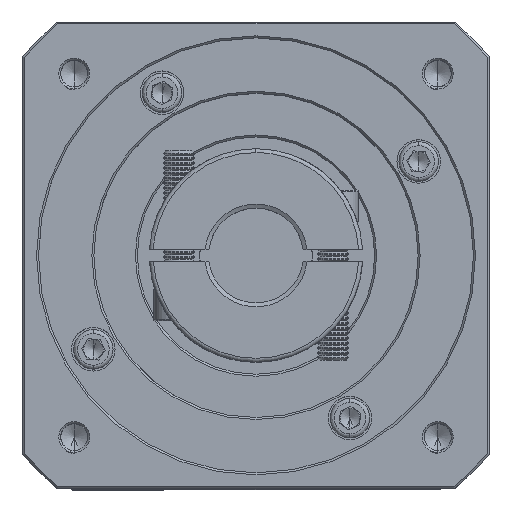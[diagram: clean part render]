
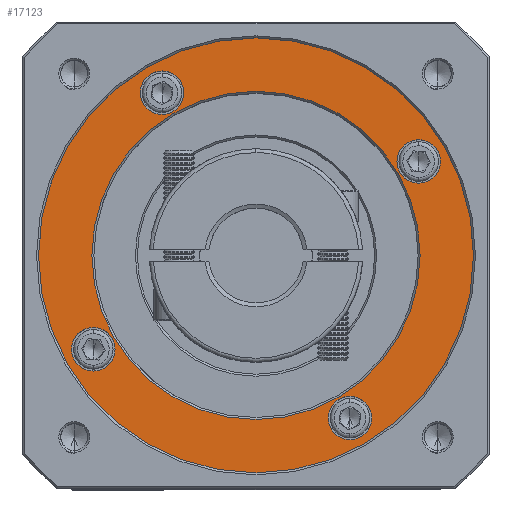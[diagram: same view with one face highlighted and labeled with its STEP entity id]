
A CAD part, top view. The second image highlights one B-rep face of the part: STEP entity #17123.
In plain terms, the highlighted planar face has unit normal (0, 0, 1).
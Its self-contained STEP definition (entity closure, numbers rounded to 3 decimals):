
#1349 = AXIS2_PLACEMENT_3D ( 'NONE', #29487, #39363, #101027 ) ;
#3537 = CIRCLE ( 'NONE', #48947, 5.5 ) ;
#4870 = VERTEX_POINT ( 'NONE', #115935 ) ;
#5914 = ORIENTED_EDGE ( 'NONE', *, *, #74565, .T. ) ;
#6865 = DIRECTION ( 'NONE',  ( 0., 1., 0. ) ) ;
#7279 = ORIENTED_EDGE ( 'NONE', *, *, #54686, .T. ) ;
#7755 = CARTESIAN_POINT ( 'NONE',  ( 52.682, 61.973, 0.694 ) ) ;
#8199 = DIRECTION ( 'NONE',  ( 0., 0., -1. ) ) ;
#8661 = VERTEX_POINT ( 'NONE', #67718 ) ;
#10295 = AXIS2_PLACEMENT_3D ( 'NONE', #7755, #8199, #79677 ) ;
#12389 = DIRECTION ( 'NONE',  ( 0., 0., -1. ) ) ;
#15146 = ORIENTED_EDGE ( 'NONE', *, *, #100506, .T. ) ;
#15988 = CIRCLE ( 'NONE', #83930, 5.5 ) ;
#16345 = VERTEX_POINT ( 'NONE', #57213 ) ;
#17123 = ADVANCED_FACE ( 'NONE', ( #90714, #73069, #114733, #85922, #25155, #21966 ), #58946, .T. ) ;
#19349 = CARTESIAN_POINT ( 'NONE',  ( 28.932, 108.61, 0.694 ) ) ;
#19363 = CIRCLE ( 'NONE', #41171, 41.5 ) ;
#20183 = EDGE_LOOP ( 'NONE', ( #56001, #39462 ) ) ;
#20666 = CARTESIAN_POINT ( 'NONE',  ( 28.932, 97.61, 0.694 ) ) ;
#21509 = CARTESIAN_POINT ( 'NONE',  ( 76.432, 20.837, 0.694 ) ) ;
#21966 = FACE_BOUND ( 'NONE', #122737, .T. ) ;
#25155 = FACE_BOUND ( 'NONE', #116338, .T. ) ;
#26543 = EDGE_CURVE ( 'NONE', #102422, #16345, #73822, .T. ) ;
#26806 = AXIS2_PLACEMENT_3D ( 'NONE', #21509, #53233, #61723 ) ;
#28297 = DIRECTION ( 'NONE',  ( 0., 1., 0. ) ) ;
#28774 = CIRCLE ( 'NONE', #26806, 5.5 ) ;
#29487 = CARTESIAN_POINT ( 'NONE',  ( 52.682, 61.973, 0.694 ) ) ;
#31024 = EDGE_CURVE ( 'NONE', #117292, #36007, #37559, .T. ) ;
#33037 = CIRCLE ( 'NONE', #33877, 55. ) ;
#33498 = CARTESIAN_POINT ( 'NONE',  ( 93.818, 85.723, 0.694 ) ) ;
#33877 = AXIS2_PLACEMENT_3D ( 'NONE', #122099, #80997, #101135 ) ;
#35994 = CARTESIAN_POINT ( 'NONE',  ( 52.682, 61.973, 0.694 ) ) ;
#36007 = VERTEX_POINT ( 'NONE', #100185 ) ;
#37559 = CIRCLE ( 'NONE', #117155, 5.5 ) ;
#38599 = AXIS2_PLACEMENT_3D ( 'NONE', #121700, #70687, #28297 ) ;
#38871 = DIRECTION ( 'NONE',  ( 0., 1., 0. ) ) ;
#39363 = DIRECTION ( 'NONE',  ( 0., 0., 1. ) ) ;
#39462 = ORIENTED_EDGE ( 'NONE', *, *, #102909, .T. ) ;
#40712 = CARTESIAN_POINT ( 'NONE',  ( 52.682, 6.973, 0.694 ) ) ;
#41171 = AXIS2_PLACEMENT_3D ( 'NONE', #73074, #125017, #104852 ) ;
#41724 = VERTEX_POINT ( 'NONE', #60494 ) ;
#42511 = CARTESIAN_POINT ( 'NONE',  ( 94.182, 61.973, 0.694 ) ) ;
#42947 = EDGE_LOOP ( 'NONE', ( #64768, #69262 ) ) ;
#43235 = EDGE_CURVE ( 'NONE', #53915, #8661, #28774, .T. ) ;
#44308 = CARTESIAN_POINT ( 'NONE',  ( 52.682, 116.973, 0.694 ) ) ;
#45794 = DIRECTION ( 'NONE',  ( 0., 1., 0. ) ) ;
#48080 = CARTESIAN_POINT ( 'NONE',  ( 11.546, 38.223, 0.694 ) ) ;
#48947 = AXIS2_PLACEMENT_3D ( 'NONE', #33498, #96010, #105404 ) ;
#53233 = DIRECTION ( 'NONE',  ( 0., 0., -1. ) ) ;
#53915 = VERTEX_POINT ( 'NONE', #102284 ) ;
#54686 = EDGE_CURVE ( 'NONE', #95677, #94227, #15988, .T. ) ;
#55000 = VERTEX_POINT ( 'NONE', #44308 ) ;
#56001 = ORIENTED_EDGE ( 'NONE', *, *, #26543, .T. ) ;
#57213 = CARTESIAN_POINT ( 'NONE',  ( 11.182, 61.973, 0.694 ) ) ;
#58877 = CARTESIAN_POINT ( 'NONE',  ( 11.546, 38.223, 0.694 ) ) ;
#58946 = PLANE ( 'NONE',  #1349 ) ;
#60347 = EDGE_CURVE ( 'NONE', #8661, #53915, #93786, .T. ) ;
#60494 = CARTESIAN_POINT ( 'NONE',  ( 93.818, 91.223, 0.694 ) ) ;
#61723 = DIRECTION ( 'NONE',  ( 0., 1., 0. ) ) ;
#64710 = AXIS2_PLACEMENT_3D ( 'NONE', #105769, #12389, #104895 ) ;
#64768 = ORIENTED_EDGE ( 'NONE', *, *, #94246, .T. ) ;
#65368 = CARTESIAN_POINT ( 'NONE',  ( 93.818, 85.723, 0.694 ) ) ;
#65591 = CIRCLE ( 'NONE', #64710, 5.5 ) ;
#67718 = CARTESIAN_POINT ( 'NONE',  ( 76.432, 26.337, 0.694 ) ) ;
#68130 = DIRECTION ( 'NONE',  ( 0., 0., -1. ) ) ;
#69262 = ORIENTED_EDGE ( 'NONE', *, *, #120875, .T. ) ;
#70687 = DIRECTION ( 'NONE',  ( 0., 0., -1. ) ) ;
#71584 = AXIS2_PLACEMENT_3D ( 'NONE', #48080, #68130, #119993 ) ;
#72836 = ORIENTED_EDGE ( 'NONE', *, *, #92486, .T. ) ;
#73069 = FACE_BOUND ( 'NONE', #20183, .T. ) ;
#73074 = CARTESIAN_POINT ( 'NONE',  ( 52.682, 61.973, 0.694 ) ) ;
#73467 = EDGE_CURVE ( 'NONE', #4870, #41724, #95005, .T. ) ;
#73822 = CIRCLE ( 'NONE', #10295, 41.5 ) ;
#74565 = EDGE_CURVE ( 'NONE', #94227, #95677, #65591, .T. ) ;
#79677 = DIRECTION ( 'NONE',  ( 1., 0., 0. ) ) ;
#80997 = DIRECTION ( 'NONE',  ( 0., 0., 1. ) ) ;
#83930 = AXIS2_PLACEMENT_3D ( 'NONE', #110579, #120776, #6865 ) ;
#85922 = FACE_BOUND ( 'NONE', #131195, .T. ) ;
#90714 = FACE_OUTER_BOUND ( 'NONE', #42947, .T. ) ;
#90908 = ORIENTED_EDGE ( 'NONE', *, *, #43235, .T. ) ;
#92486 = EDGE_CURVE ( 'NONE', #41724, #4870, #3537, .T. ) ;
#93786 = CIRCLE ( 'NONE', #38599, 5.5 ) ;
#94227 = VERTEX_POINT ( 'NONE', #20666 ) ;
#94246 = EDGE_CURVE ( 'NONE', #55000, #114754, #33037, .T. ) ;
#95005 = CIRCLE ( 'NONE', #107483, 5.5 ) ;
#95677 = VERTEX_POINT ( 'NONE', #19349 ) ;
#96010 = DIRECTION ( 'NONE',  ( 0., 0., -1. ) ) ;
#97621 = DIRECTION ( 'NONE',  ( 0., 0., 1. ) ) ;
#98028 = CARTESIAN_POINT ( 'NONE',  ( 11.546, 32.723, 0.694 ) ) ;
#100185 = CARTESIAN_POINT ( 'NONE',  ( 11.546, 43.723, 0.694 ) ) ;
#100506 = EDGE_CURVE ( 'NONE', #36007, #117292, #102163, .T. ) ;
#100560 = ORIENTED_EDGE ( 'NONE', *, *, #73467, .T. ) ;
#101027 = DIRECTION ( 'NONE',  ( 0., 1., 0. ) ) ;
#101135 = DIRECTION ( 'NONE',  ( 0., 1., 0. ) ) ;
#102163 = CIRCLE ( 'NONE', #71584, 5.5 ) ;
#102284 = CARTESIAN_POINT ( 'NONE',  ( 76.432, 15.337, 0.694 ) ) ;
#102422 = VERTEX_POINT ( 'NONE', #42511 ) ;
#102909 = EDGE_CURVE ( 'NONE', #16345, #102422, #19363, .T. ) ;
#104852 = DIRECTION ( 'NONE',  ( 1., 0., 0. ) ) ;
#104895 = DIRECTION ( 'NONE',  ( 0., 1., 0. ) ) ;
#105404 = DIRECTION ( 'NONE',  ( 0., 1., 0. ) ) ;
#105769 = CARTESIAN_POINT ( 'NONE',  ( 28.932, 103.11, 0.694 ) ) ;
#106552 = DIRECTION ( 'NONE',  ( 0., 1., 0. ) ) ;
#107483 = AXIS2_PLACEMENT_3D ( 'NONE', #65368, #116823, #106552 ) ;
#108528 = AXIS2_PLACEMENT_3D ( 'NONE', #35994, #97621, #45794 ) ;
#109944 = DIRECTION ( 'NONE',  ( 0., 0., -1. ) ) ;
#110579 = CARTESIAN_POINT ( 'NONE',  ( 28.932, 103.11, 0.694 ) ) ;
#114733 = FACE_BOUND ( 'NONE', #120565, .T. ) ;
#114754 = VERTEX_POINT ( 'NONE', #40712 ) ;
#115935 = CARTESIAN_POINT ( 'NONE',  ( 93.818, 80.223, 0.694 ) ) ;
#116338 = EDGE_LOOP ( 'NONE', ( #15146, #122142 ) ) ;
#116823 = DIRECTION ( 'NONE',  ( 0., 0., -1. ) ) ;
#117155 = AXIS2_PLACEMENT_3D ( 'NONE', #58877, #109944, #38871 ) ;
#117218 = ORIENTED_EDGE ( 'NONE', *, *, #60347, .T. ) ;
#117292 = VERTEX_POINT ( 'NONE', #98028 ) ;
#119993 = DIRECTION ( 'NONE',  ( 0., 1., 0. ) ) ;
#120565 = EDGE_LOOP ( 'NONE', ( #7279, #5914 ) ) ;
#120776 = DIRECTION ( 'NONE',  ( 0., 0., -1. ) ) ;
#120875 = EDGE_CURVE ( 'NONE', #114754, #55000, #123255, .T. ) ;
#121700 = CARTESIAN_POINT ( 'NONE',  ( 76.432, 20.837, 0.694 ) ) ;
#122099 = CARTESIAN_POINT ( 'NONE',  ( 52.682, 61.973, 0.694 ) ) ;
#122142 = ORIENTED_EDGE ( 'NONE', *, *, #31024, .T. ) ;
#122737 = EDGE_LOOP ( 'NONE', ( #117218, #90908 ) ) ;
#123255 = CIRCLE ( 'NONE', #108528, 55. ) ;
#125017 = DIRECTION ( 'NONE',  ( 0., 0., -1. ) ) ;
#131195 = EDGE_LOOP ( 'NONE', ( #72836, #100560 ) ) ;
